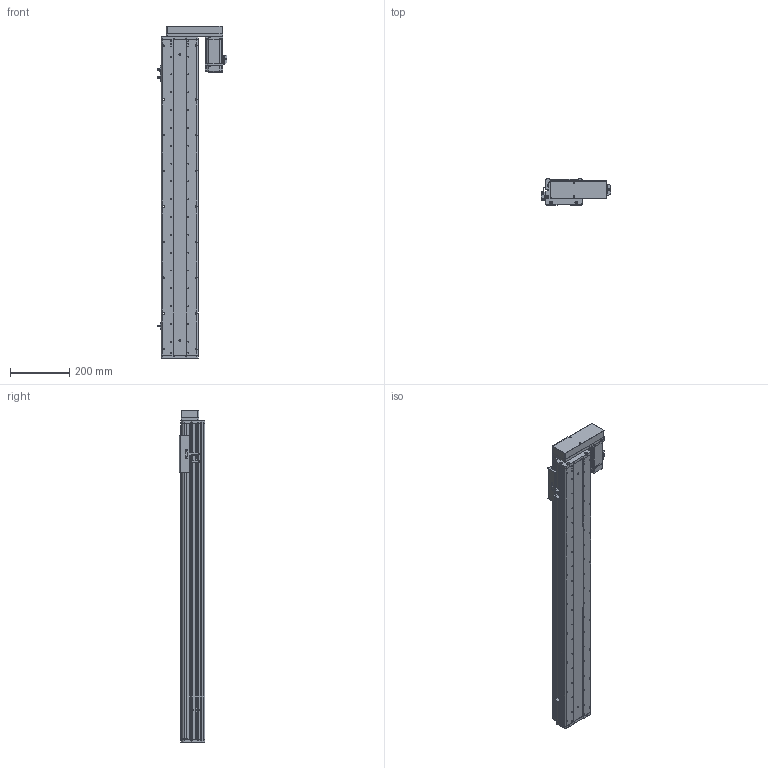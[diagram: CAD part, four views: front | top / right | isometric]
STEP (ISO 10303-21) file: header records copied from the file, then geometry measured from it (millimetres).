
FILE_DESCRIPTION (( 'STEP AP214' ), '1' );
FILE_NAME ('KSD125S-S850-MR-CM.STEP', '2017-10-21T09:03:17', ( '微软用户' ), ( '微软中国' ), 'SwSTEP 2.0', 'SolidWorks 2014', '' );
FILE_SCHEMA (( 'AUTOMOTIVE_DESIGN' ));
Length unit declared in the file: millimetre
Products named in the file (16): HTPA30S3M150_A_H6_a佪裝蚚; HTPA30S3M150_A_H6_a萇儂蚚; 125宽马达安装板连板左右折丝杆; 125悵誘欶酘衵殏; KSD125S-850俴最佪裝滅鳥裔; KSD125S-850俴最佪裝菁啣; KSD125-賑雄釱1; MHMD042G1CA_2_03; 拸萇儂釱滅袉菜; 拸萇儂釱滅袉菜-1; 覜茼え68遵圉猾敕; U倰嫖萇假蚾璃; U倰嫖萇EEㄜSX672; ヶ傷啣-125遵耀郪; 125-帣傷啣1; KSD125S-S850-MR-CM
Assembly tree (19 placements, depth 2):
  KSD125S-S850-MR-CM
    125-帣傷啣1
    ヶ傷啣-125遵耀郪
    U倰嫖萇EEㄜSX672  x3
    U倰嫖萇假蚾璃  x3
    覜茼え68遵圉猾敕
    拸萇儂釱滅袉菜-1
    拸萇儂釱滅袉菜
    MHMD042G1CA_2_03
    KSD125-賑雄釱1
    KSD125S-850俴最佪裝菁啣
    KSD125S-850俴最佪裝滅鳥裔
    125悵誘欶酘衵殏
    125宽马达安装板连板左右折丝杆
    HTPA30S3M150_A_H6_a萇儂蚚
    HTPA30S3M150_A_H6_a佪裝蚚
Bounding box: 234.2 x 86 x 1117.5 mm (x, y, z)
Volume: 3576101.3 mm3; surface area: 1212375.1 mm2
Topology: 18 solids, 21 shells, 2237 faces, 6489 edges, 4281 vertices
Faces by surface type: cylinder 1410, plane 686, cone 119, bspline 22
Entity records: 79103 total; most frequent: CARTESIAN_POINT 16051, DIRECTION 12343, ORIENTED_EDGE 11486, EDGE_CURVE 5821, AXIS2_PLACEMENT_3D 4779, VERTEX_POINT 3873, LINE 2785, VECTOR 2785
